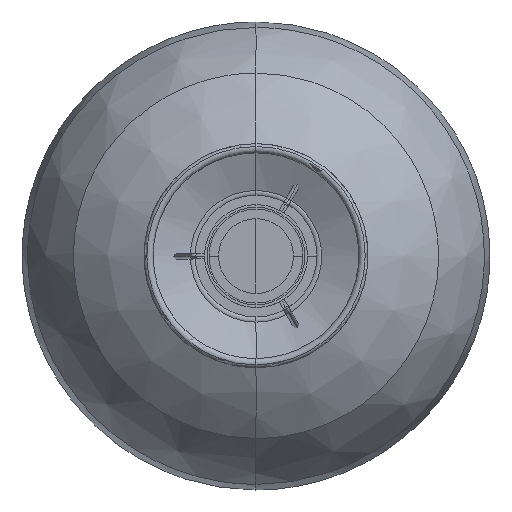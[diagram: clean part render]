
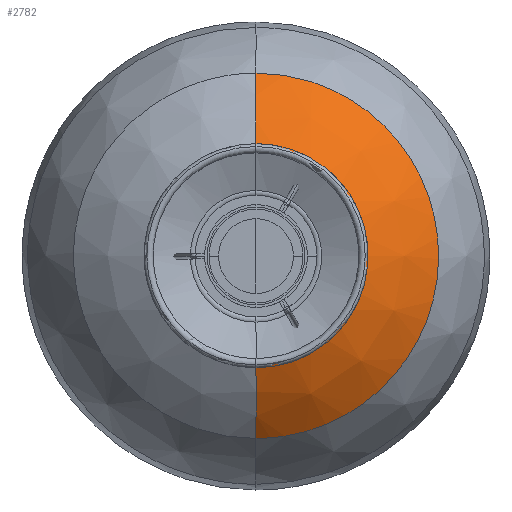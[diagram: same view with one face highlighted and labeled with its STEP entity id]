
A CAD part, top view. The second image highlights one B-rep face of the part: STEP entity #2782.
In plain terms, the highlighted free-form (B-spline) face has degree [2, 2] with [3, 5] control points.
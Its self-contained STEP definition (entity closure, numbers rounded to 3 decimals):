
#28=(
BOUNDED_SURFACE()
B_SPLINE_SURFACE(2,2,((#6878,#6879,#6880,#6881,#6882),(#6883,#6884,#6885,
#6886,#6887),(#6888,#6889,#6890,#6891,#6892)),.UNSPECIFIED.,.F.,.F.,.F.)
B_SPLINE_SURFACE_WITH_KNOTS((3,3),(3,2,3),(0.786,1.175),
(-1.571,0.,1.571),
 .UNSPECIFIED.)
GEOMETRIC_REPRESENTATION_ITEM()
RATIONAL_B_SPLINE_SURFACE(((1.,0.707,1.,0.707,1.),
(0.981,0.694,0.981,0.694,
0.981),(1.,0.707,1.,0.707,1.)))
REPRESENTATION_ITEM('')
SURFACE()
);
#94=B_SPLINE_CURVE_WITH_KNOTS('',3,(#6896,#6897,#6898,#6899,#6900,#6901,
#6902,#6903,#6904,#6905,#6906,#6907),.UNSPECIFIED.,.F.,.F.,(4,1,1,1,1,1,
1,1,1,4),(0.,0.111,0.222,0.333,0.444,
0.556,0.667,0.778,0.889,
1.),.UNSPECIFIED.);
#398=FACE_OUTER_BOUND('',#608,.T.);
#608=EDGE_LOOP('',(#2366,#2367,#2368,#2369));
#1106=CIRCLE('',#3132,58.336);
#1108=CIRCLE('',#3135,122.188);
#1109=CIRCLE('',#3136,122.188);
#1318=VERTEX_POINT('',#6871);
#1319=VERTEX_POINT('',#6873);
#1320=VERTEX_POINT('',#6893);
#1321=VERTEX_POINT('',#6895);
#1667=EDGE_CURVE('',#1319,#1318,#1106,.T.);
#1670=EDGE_CURVE('',#1320,#1318,#1108,.T.);
#1671=EDGE_CURVE('',#1321,#1320,#94,.T.);
#1672=EDGE_CURVE('',#1319,#1321,#1109,.T.);
#2366=ORIENTED_EDGE('',*,*,#1667,.T.);
#2367=ORIENTED_EDGE('',*,*,#1670,.F.);
#2368=ORIENTED_EDGE('',*,*,#1671,.F.);
#2369=ORIENTED_EDGE('',*,*,#1672,.F.);
#2782=ADVANCED_FACE('',(#398),#28,.F.);
#3132=AXIS2_PLACEMENT_3D('',#6874,#3923,#3924);
#3135=AXIS2_PLACEMENT_3D('',#6894,#3930,#3931);
#3136=AXIS2_PLACEMENT_3D('',#6908,#3932,#3933);
#3923=DIRECTION('center_axis',(0.,0.,
-1.));
#3924=DIRECTION('ref_axis',(-0.588,0.809,0.));
#3930=DIRECTION('center_axis',(-1.,0.,0.));
#3931=DIRECTION('ref_axis',(0.,-1.,0.));
#3932=DIRECTION('center_axis',(-1.,0.,0.));
#3933=DIRECTION('ref_axis',(0.,1.,0.));
#6871=CARTESIAN_POINT('',(0.,-58.336,188.945));
#6873=CARTESIAN_POINT('',(0.,58.336,188.945));
#6874=CARTESIAN_POINT('Origin',(0.,0.,
188.945));
#6878=CARTESIAN_POINT('Ctrl Pts',(0.,-97.554,
162.689));
#6879=CARTESIAN_POINT('Ctrl Pts',(97.554,-97.554,162.689));
#6880=CARTESIAN_POINT('Ctrl Pts',(97.554,0.,
162.689));
#6881=CARTESIAN_POINT('Ctrl Pts',(97.554,97.554,162.689));
#6882=CARTESIAN_POINT('Ctrl Pts',(0.,97.554,
162.689));
#6883=CARTESIAN_POINT('Ctrl Pts',(0.,-80.529,
179.677));
#6884=CARTESIAN_POINT('Ctrl Pts',(80.529,-80.529,179.677));
#6885=CARTESIAN_POINT('Ctrl Pts',(80.529,0.,
179.677));
#6886=CARTESIAN_POINT('Ctrl Pts',(80.529,80.529,179.677));
#6887=CARTESIAN_POINT('Ctrl Pts',(0.,80.529,
179.677));
#6888=CARTESIAN_POINT('Ctrl Pts',(0.,-58.336,
188.945));
#6889=CARTESIAN_POINT('Ctrl Pts',(58.336,-58.336,188.945));
#6890=CARTESIAN_POINT('Ctrl Pts',(58.336,0.,
188.945));
#6891=CARTESIAN_POINT('Ctrl Pts',(58.336,58.336,188.945));
#6892=CARTESIAN_POINT('Ctrl Pts',(0.,58.336,
188.945));
#6893=CARTESIAN_POINT('',(0.,-97.521,162.721));
#6894=CARTESIAN_POINT('Origin',(0.,-11.247,
76.195));
#6895=CARTESIAN_POINT('',(0.,97.521,162.721));
#6896=CARTESIAN_POINT('Ctrl Pts',(0.,97.521,
162.721));
#6897=CARTESIAN_POINT('Ctrl Pts',(11.376,97.603,162.721));
#6898=CARTESIAN_POINT('Ctrl Pts',(34.025,93.482,162.721));
#6899=CARTESIAN_POINT('Ctrl Pts',(63.975,76.248,162.721));
#6900=CARTESIAN_POINT('Ctrl Pts',(86.187,49.758,162.721));
#6901=CARTESIAN_POINT('Ctrl Pts',(98.01,17.283,162.721));
#6902=CARTESIAN_POINT('Ctrl Pts',(98.01,-17.283,162.721));
#6903=CARTESIAN_POINT('Ctrl Pts',(86.187,-49.758,162.721));
#6904=CARTESIAN_POINT('Ctrl Pts',(63.975,-76.248,162.721));
#6905=CARTESIAN_POINT('Ctrl Pts',(34.025,-93.482,162.721));
#6906=CARTESIAN_POINT('Ctrl Pts',(11.376,-97.603,162.721));
#6907=CARTESIAN_POINT('Ctrl Pts',(0.,-97.521,
162.721));
#6908=CARTESIAN_POINT('Origin',(0.,11.247,
76.195));
